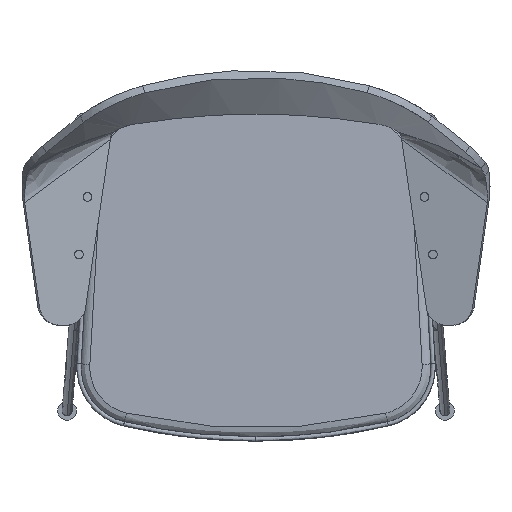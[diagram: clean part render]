
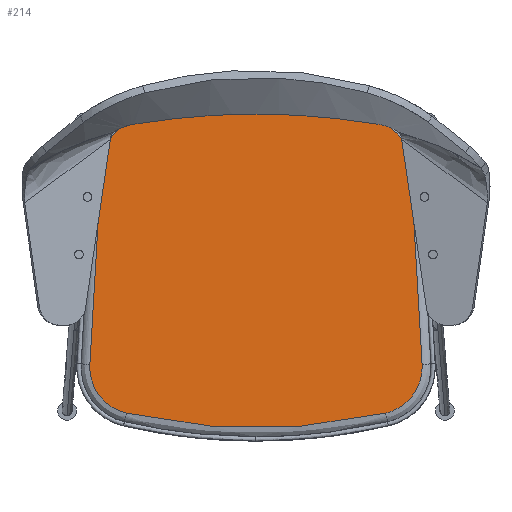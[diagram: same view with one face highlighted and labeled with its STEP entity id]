
A CAD part, top view. The second image highlights one B-rep face of the part: STEP entity #214.
In plain terms, the highlighted planar face has unit normal (0, 0.035, 0.999).
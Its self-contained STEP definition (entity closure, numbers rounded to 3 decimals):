
#214=ADVANCED_FACE('',(#412),#3129,.T.);
#412=FACE_OUTER_BOUND('',#614,.T.);
#614=EDGE_LOOP('',(#1205,#1206,#1207,#1208,#1209,#1210,#1211,#1212,#1213));
#1205=ORIENTED_EDGE('',*,*,#1917,.T.);
#1206=ORIENTED_EDGE('',*,*,#1853,.F.);
#1207=ORIENTED_EDGE('',*,*,#1952,.F.);
#1208=ORIENTED_EDGE('',*,*,#1951,.F.);
#1209=ORIENTED_EDGE('',*,*,#1948,.F.);
#1210=ORIENTED_EDGE('',*,*,#1909,.F.);
#1211=ORIENTED_EDGE('',*,*,#1911,.F.);
#1212=ORIENTED_EDGE('',*,*,#1913,.F.);
#1213=ORIENTED_EDGE('',*,*,#1915,.F.);
#1853=EDGE_CURVE('',#2806,#2807,#2233,.T.);
#1909=EDGE_CURVE('',#2835,#2834,#2270,.T.);
#1911=EDGE_CURVE('',#2836,#2835,#2272,.T.);
#1913=EDGE_CURVE('',#2837,#2836,#2538,.T.);
#1915=EDGE_CURVE('',#2832,#2837,#2275,.T.);
#1917=EDGE_CURVE('',#2832,#2807,#2277,.T.);
#1948=EDGE_CURVE('',#2834,#2848,#2301,.T.);
#1951=EDGE_CURVE('',#2848,#2849,#2547,.T.);
#1952=EDGE_CURVE('',#2849,#2806,#2303,.T.);
#2233=(
BOUNDED_CURVE()
B_SPLINE_CURVE(2,(#9830,#9831,#9832),.UNSPECIFIED.,.F.,.F.)
B_SPLINE_CURVE_WITH_KNOTS((3,3),(-161.555,0.),.UNSPECIFIED.)
CURVE()
GEOMETRIC_REPRESENTATION_ITEM()
RATIONAL_B_SPLINE_CURVE((1.,0.995,1.))
REPRESENTATION_ITEM('')
);
#2270=(
BOUNDED_CURVE()
B_SPLINE_CURVE(2,(#10193,#10194,#10195),.UNSPECIFIED.,.F.,.F.)
B_SPLINE_CURVE_WITH_KNOTS((3,3),(13.909,372.748),
 .UNSPECIFIED.)
CURVE()
GEOMETRIC_REPRESENTATION_ITEM()
RATIONAL_B_SPLINE_CURVE((1.,0.974,1.))
REPRESENTATION_ITEM('')
);
#2272=(
BOUNDED_CURVE()
B_SPLINE_CURVE(2,(#10199,#10200,#10201),.UNSPECIFIED.,.F.,.F.)
B_SPLINE_CURVE_WITH_KNOTS((3,3),(13.909,104.918),
 .UNSPECIFIED.)
CURVE()
GEOMETRIC_REPRESENTATION_ITEM()
RATIONAL_B_SPLINE_CURVE((1.,0.765,1.))
REPRESENTATION_ITEM('')
);
#2275=(
BOUNDED_CURVE()
B_SPLINE_CURVE(2,(#10210,#10211,#10212),.UNSPECIFIED.,.F.,.F.)
B_SPLINE_CURVE_WITH_KNOTS((3,3),(13.909,98.871),
 .UNSPECIFIED.)
CURVE()
GEOMETRIC_REPRESENTATION_ITEM()
RATIONAL_B_SPLINE_CURVE((1.,0.794,1.))
REPRESENTATION_ITEM('')
);
#2277=(
BOUNDED_CURVE()
B_SPLINE_CURVE(2,(#10216,#10217,#10218),.UNSPECIFIED.,.F.,.F.)
B_SPLINE_CURVE_WITH_KNOTS((3,3),(-161.555,0.),.UNSPECIFIED.)
CURVE()
GEOMETRIC_REPRESENTATION_ITEM()
RATIONAL_B_SPLINE_CURVE((1.,0.995,1.))
REPRESENTATION_ITEM('')
);
#2301=(
BOUNDED_CURVE()
B_SPLINE_CURVE(2,(#10302,#10303,#10304),.UNSPECIFIED.,.F.,.F.)
B_SPLINE_CURVE_WITH_KNOTS((3,3),(13.909,104.918),
 .UNSPECIFIED.)
CURVE()
GEOMETRIC_REPRESENTATION_ITEM()
RATIONAL_B_SPLINE_CURVE((1.,0.765,1.))
REPRESENTATION_ITEM('')
);
#2303=(
BOUNDED_CURVE()
B_SPLINE_CURVE(2,(#10312,#10313,#10314),.UNSPECIFIED.,.F.,.F.)
B_SPLINE_CURVE_WITH_KNOTS((3,3),(13.909,98.871),
 .UNSPECIFIED.)
CURVE()
GEOMETRIC_REPRESENTATION_ITEM()
RATIONAL_B_SPLINE_CURVE((1.,0.794,1.))
REPRESENTATION_ITEM('')
);
#2538=B_SPLINE_CURVE_WITH_KNOTS('',1,(#10205,#10206),.UNSPECIFIED.,.F.,.F.,
(2,2),(13.909,290.454),.UNSPECIFIED.);
#2547=B_SPLINE_CURVE_WITH_KNOTS('',1,(#10310,#10311),.UNSPECIFIED.,.F.,.F.,
(2,2),(13.909,290.454),.UNSPECIFIED.);
#2806=VERTEX_POINT('',#9464);
#2807=VERTEX_POINT('',#9465);
#2832=VERTEX_POINT('',#9490);
#2834=VERTEX_POINT('',#9492);
#2835=VERTEX_POINT('',#9493);
#2836=VERTEX_POINT('',#9494);
#2837=VERTEX_POINT('',#9495);
#2848=VERTEX_POINT('',#9506);
#2849=VERTEX_POINT('',#9507);
#3129=PLANE('',#3256);
#3256=AXIS2_PLACEMENT_3D('',#8997,#3299,$);
#3299=DIRECTION('',(0.,0.035,0.999));
#8997=CARTESIAN_POINT('',(-18.132,-78.541,450.16));
#9464=CARTESIAN_POINT('',(98.883,411.651,433.042));
#9465=CARTESIAN_POINT('',(259.3,428.206,432.464));
#9490=CARTESIAN_POINT('',(419.717,411.651,433.042));
#9492=CARTESIAN_POINT('',(81.439,8.877,447.107));
#9493=CARTESIAN_POINT('',(437.161,8.877,447.107));
#9494=CARTESIAN_POINT('',(487.325,75.906,444.766));
#9495=CARTESIAN_POINT('',(471.325,351.819,435.131));
#9506=CARTESIAN_POINT('',(31.275,75.906,444.766));
#9507=CARTESIAN_POINT('',(47.275,351.819,435.131));
#9830=CARTESIAN_POINT('',(98.883,411.651,433.042));
#9831=CARTESIAN_POINT('',(178.236,428.206,432.464));
#9832=CARTESIAN_POINT('',(259.3,428.206,432.464));
#10193=CARTESIAN_POINT('',(437.161,8.877,447.107));
#10194=CARTESIAN_POINT('',(259.3,-32.473,448.551));
#10195=CARTESIAN_POINT('',(81.439,8.877,447.107));
#10199=CARTESIAN_POINT('',(487.325,75.906,444.766));
#10200=CARTESIAN_POINT('',(490.493,21.275,446.674));
#10201=CARTESIAN_POINT('',(437.161,8.877,447.107));
#10205=CARTESIAN_POINT('',(471.325,351.819,435.131));
#10206=CARTESIAN_POINT('',(487.325,75.906,444.766));
#10210=CARTESIAN_POINT('',(419.717,411.651,433.042));
#10211=CARTESIAN_POINT('',(468.445,401.484,433.397));
#10212=CARTESIAN_POINT('',(471.325,351.819,435.131));
#10216=CARTESIAN_POINT('',(419.717,411.651,433.042));
#10217=CARTESIAN_POINT('',(340.364,428.206,432.464));
#10218=CARTESIAN_POINT('',(259.3,428.206,432.464));
#10302=CARTESIAN_POINT('',(81.439,8.877,447.107));
#10303=CARTESIAN_POINT('',(28.107,21.275,446.674));
#10304=CARTESIAN_POINT('',(31.275,75.906,444.766));
#10310=CARTESIAN_POINT('',(31.275,75.906,444.766));
#10311=CARTESIAN_POINT('',(47.275,351.819,435.131));
#10312=CARTESIAN_POINT('',(47.275,351.819,435.131));
#10313=CARTESIAN_POINT('',(50.155,401.484,433.397));
#10314=CARTESIAN_POINT('',(98.883,411.651,433.042));
